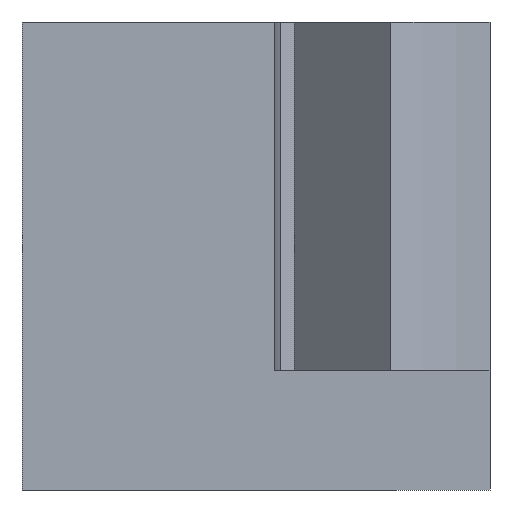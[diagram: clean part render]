
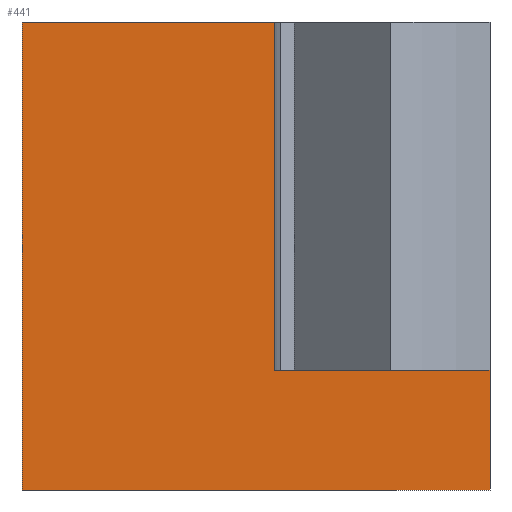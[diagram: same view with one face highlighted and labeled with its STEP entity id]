
A CAD part, left-side view. The second image highlights one B-rep face of the part: STEP entity #441.
In plain terms, the highlighted planar face has unit normal (-1, 0, 0).
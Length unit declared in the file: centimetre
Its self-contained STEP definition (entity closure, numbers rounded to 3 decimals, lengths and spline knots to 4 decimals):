
#18 = LINE ( 'NONE', #180, #191 ) ;
#20 = CARTESIAN_POINT ( 'NONE',  ( 0., 1000., 1000. ) ) ;
#22 = PLANE ( 'NONE',  #491 ) ;
#24 = CARTESIAN_POINT ( 'NONE',  ( 0., 1000., 1000. ) ) ;
#29 = EDGE_CURVE ( 'NONE', #527, #175, #447, .T. ) ;
#33 = EDGE_LOOP ( 'NONE', ( #253, #287, #112, #421, #37, #281 ) ) ;
#37 = ORIENTED_EDGE ( 'NONE', *, *, #63, .T. ) ;
#42 = CARTESIAN_POINT ( 'NONE',  ( 0., 1000., 1000. ) ) ;
#60 = CARTESIAN_POINT ( 'NONE',  ( 0., 0., 255.7371 ) ) ;
#63 = EDGE_CURVE ( 'NONE', #515, #459, #535, .T. ) ;
#82 = DIRECTION ( 'NONE',  ( 0., 0., 1. ) ) ;
#112 = ORIENTED_EDGE ( 'NONE', *, *, #29, .F. ) ;
#136 = LINE ( 'NONE', #20, #526 ) ;
#163 = CARTESIAN_POINT ( 'NONE',  ( 0., 0., 1000. ) ) ;
#175 = VERTEX_POINT ( 'NONE', #177 ) ;
#177 = CARTESIAN_POINT ( 'NONE',  ( 0., 460.7996, 1000. ) ) ;
#178 = VECTOR ( 'NONE', #261, 100. ) ;
#180 = CARTESIAN_POINT ( 'NONE',  ( 0., 1000., 255.7371 ) ) ;
#183 = CARTESIAN_POINT ( 'NONE',  ( 0., 1000., 1000. ) ) ;
#191 = VECTOR ( 'NONE', #545, 100. ) ;
#199 = EDGE_CURVE ( 'NONE', #482, #175, #357, .T. ) ;
#224 = LINE ( 'NONE', #163, #264 ) ;
#233 = DIRECTION ( 'NONE',  ( 1., 0., 0. ) ) ;
#253 = ORIENTED_EDGE ( 'NONE', *, *, #450, .F. ) ;
#261 = DIRECTION ( 'NONE',  ( 0., -1., 0. ) ) ;
#264 = VECTOR ( 'NONE', #349, 100. ) ;
#278 = CARTESIAN_POINT ( 'NONE',  ( 0., 0., 0. ) ) ;
#281 = ORIENTED_EDGE ( 'NONE', *, *, #301, .F. ) ;
#283 = VECTOR ( 'NONE', #82, 100. ) ;
#287 = ORIENTED_EDGE ( 'NONE', *, *, #199, .T. ) ;
#301 = EDGE_CURVE ( 'NONE', #397, #459, #224, .T. ) ;
#330 = DIRECTION ( 'NONE',  ( 0., 0., -1. ) ) ;
#349 = DIRECTION ( 'NONE',  ( 0., 0., -1. ) ) ;
#357 = LINE ( 'NONE', #430, #283 ) ;
#378 = CARTESIAN_POINT ( 'NONE',  ( 0., 1000., 0. ) ) ;
#397 = VERTEX_POINT ( 'NONE', #60 ) ;
#406 = FACE_OUTER_BOUND ( 'NONE', #33, .T. ) ;
#407 = VECTOR ( 'NONE', #438, 100. ) ;
#421 = ORIENTED_EDGE ( 'NONE', *, *, #455, .T. ) ;
#430 = CARTESIAN_POINT ( 'NONE',  ( 0., 460.7996, 255.7371 ) ) ;
#438 = DIRECTION ( 'NONE',  ( 0., -1., 0. ) ) ;
#441 = ADVANCED_FACE ( 'NONE', ( #406 ), #22, .F. ) ;
#447 = LINE ( 'NONE', #42, #178 ) ;
#450 = EDGE_CURVE ( 'NONE', #482, #397, #18, .T. ) ;
#455 = EDGE_CURVE ( 'NONE', #527, #515, #136, .T. ) ;
#459 = VERTEX_POINT ( 'NONE', #278 ) ;
#482 = VERTEX_POINT ( 'NONE', #554 ) ;
#491 = AXIS2_PLACEMENT_3D ( 'NONE', #183, #233, #552 ) ;
#498 = CARTESIAN_POINT ( 'NONE',  ( 0., 1000., 0. ) ) ;
#515 = VERTEX_POINT ( 'NONE', #378 ) ;
#526 = VECTOR ( 'NONE', #330, 100. ) ;
#527 = VERTEX_POINT ( 'NONE', #24 ) ;
#535 = LINE ( 'NONE', #498, #407 ) ;
#545 = DIRECTION ( 'NONE',  ( 0., -1., 0. ) ) ;
#552 = DIRECTION ( 'NONE',  ( 0., 0., -1. ) ) ;
#554 = CARTESIAN_POINT ( 'NONE',  ( 0., 460.7996, 255.7371 ) ) ;
